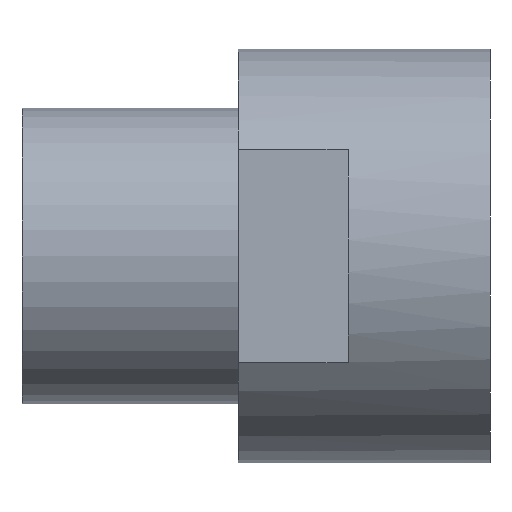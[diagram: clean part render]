
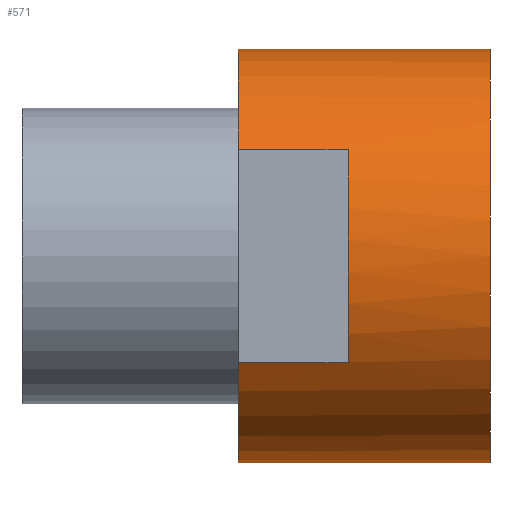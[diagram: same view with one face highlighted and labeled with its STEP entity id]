
A CAD part, front view. The second image highlights one B-rep face of the part: STEP entity #571.
In plain terms, the highlighted cylindrical face has radius 22.225 mm (diameter 44.45 mm), a partial arc.
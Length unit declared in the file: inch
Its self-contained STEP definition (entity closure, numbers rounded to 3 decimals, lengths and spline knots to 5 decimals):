
#5 = AXIS2_PLACEMENT_3D ( 'NONE', #444, #446, #445 ) ;
#11 = AXIS2_PLACEMENT_3D ( 'NONE', #525, #524, #521 ) ;
#13 = EDGE_CURVE ( 'NONE', #172, #186, #196, .T. ) ;
#18 = EDGE_CURVE ( 'NONE', #177, #193, #211, .T. ) ;
#19 = EDGE_CURVE ( 'NONE', #171, #193, #206, .T. ) ;
#26 = AXIS2_PLACEMENT_3D ( 'NONE', #399, #398, #395 ) ;
#27 = EDGE_CURVE ( 'NONE', #165, #174, #216, .T. ) ;
#28 = EDGE_CURVE ( 'NONE', #174, #177, #220, .T. ) ;
#39 = EDGE_CURVE ( 'NONE', #165, #172, #300, .T. ) ;
#41 = EDGE_CURVE ( 'NONE', #184, #186, #234, .T. ) ;
#44 = EDGE_CURVE ( 'NONE', #171, #184, #150, .T. ) ;
#53 = AXIS2_PLACEMENT_3D ( 'NONE', #528, #527, #526 ) ;
#60 = AXIS2_PLACEMENT_3D ( 'NONE', #367, #373, #371 ) ;
#114 = FACE_OUTER_BOUND ( 'NONE', #310, .T. ) ;
#148 = VECTOR ( 'NONE', #517, 39.37008 ) ;
#150 = LINE ( 'NONE', #518, #148 ) ;
#154 = ORIENTED_EDGE ( 'NONE', *, *, #13, .T. ) ;
#155 = ORIENTED_EDGE ( 'NONE', *, *, #28, .F. ) ;
#156 = ORIENTED_EDGE ( 'NONE', *, *, #41, .F. ) ;
#158 = ORIENTED_EDGE ( 'NONE', *, *, #39, .T. ) ;
#161 = ORIENTED_EDGE ( 'NONE', *, *, #19, .T. ) ;
#163 = ORIENTED_EDGE ( 'NONE', *, *, #18, .F. ) ;
#165 = VERTEX_POINT ( 'NONE', #477 ) ;
#169 = ORIENTED_EDGE ( 'NONE', *, *, #44, .F. ) ;
#171 = VERTEX_POINT ( 'NONE', #480 ) ;
#172 = VERTEX_POINT ( 'NONE', #472 ) ;
#173 = ORIENTED_EDGE ( 'NONE', *, *, #27, .F. ) ;
#174 = VERTEX_POINT ( 'NONE', #484 ) ;
#177 = VERTEX_POINT ( 'NONE', #467 ) ;
#184 = VERTEX_POINT ( 'NONE', #460 ) ;
#186 = VERTEX_POINT ( 'NONE', #456 ) ;
#193 = VERTEX_POINT ( 'NONE', #451 ) ;
#196 = LINE ( 'NONE', #519, #227 ) ;
#206 = CIRCLE ( 'NONE', #5, 0.875 ) ;
#210 = VECTOR ( 'NONE', #474, 39.37008 ) ;
#211 = LINE ( 'NONE', #470, #210 ) ;
#216 = LINE ( 'NONE', #447, #223 ) ;
#220 = CIRCLE ( 'NONE', #26, 0.875 ) ;
#223 = VECTOR ( 'NONE', #432, 39.37008 ) ;
#227 = VECTOR ( 'NONE', #489, 39.37008 ) ;
#234 = CIRCLE ( 'NONE', #11, 0.875 ) ;
#300 = CIRCLE ( 'NONE', #53, 0.875 ) ;
#310 = EDGE_LOOP ( 'NONE', ( #169, #161, #163, #155, #173, #158, #154, #156 ) ) ;
#367 = CARTESIAN_POINT ( 'NONE',  ( 0., 0., 0. ) ) ;
#371 = DIRECTION ( 'NONE',  ( 0., 0., -1. ) ) ;
#373 = DIRECTION ( 'NONE',  ( 1., 0., 0. ) ) ;
#395 = DIRECTION ( 'NONE',  ( 0., 0., 1. ) ) ;
#398 = DIRECTION ( 'NONE',  ( -1., 0., 0. ) ) ;
#399 = CARTESIAN_POINT ( 'NONE',  ( -0.6, 0., 0. ) ) ;
#432 = DIRECTION ( 'NONE',  ( 1., 0., 0. ) ) ;
#444 = CARTESIAN_POINT ( 'NONE',  ( -1.065, 0., 0. ) ) ;
#445 = DIRECTION ( 'NONE',  ( 0., 0., -1. ) ) ;
#446 = DIRECTION ( 'NONE',  ( 1., 0., 0. ) ) ;
#447 = CARTESIAN_POINT ( 'NONE',  ( 0., -0.75, -0.45069 ) ) ;
#451 = CARTESIAN_POINT ( 'NONE',  ( -1.065, -0.75, 0.45069 ) ) ;
#456 = CARTESIAN_POINT ( 'NONE',  ( 0., 0., -0.875 ) ) ;
#460 = CARTESIAN_POINT ( 'NONE',  ( 0., 0., 0.875 ) ) ;
#467 = CARTESIAN_POINT ( 'NONE',  ( -0.6, -0.75, 0.45069 ) ) ;
#470 = CARTESIAN_POINT ( 'NONE',  ( 0., -0.75, 0.45069 ) ) ;
#472 = CARTESIAN_POINT ( 'NONE',  ( -1.065, 0., -0.875 ) ) ;
#474 = DIRECTION ( 'NONE',  ( -1., 0., 0. ) ) ;
#477 = CARTESIAN_POINT ( 'NONE',  ( -1.065, -0.75, -0.45069 ) ) ;
#480 = CARTESIAN_POINT ( 'NONE',  ( -1.065, 0., 0.875 ) ) ;
#484 = CARTESIAN_POINT ( 'NONE',  ( -0.6, -0.75, -0.45069 ) ) ;
#489 = DIRECTION ( 'NONE',  ( 1., 0., 0. ) ) ;
#517 = DIRECTION ( 'NONE',  ( 1., 0., 0. ) ) ;
#518 = CARTESIAN_POINT ( 'NONE',  ( 0., 0., 0.875 ) ) ;
#519 = CARTESIAN_POINT ( 'NONE',  ( 0., 0., -0.875 ) ) ;
#521 = DIRECTION ( 'NONE',  ( 0., 0., -1. ) ) ;
#524 = DIRECTION ( 'NONE',  ( 1., 0., 0. ) ) ;
#525 = CARTESIAN_POINT ( 'NONE',  ( 0., 0., 0. ) ) ;
#526 = DIRECTION ( 'NONE',  ( 0., 0., -1. ) ) ;
#527 = DIRECTION ( 'NONE',  ( 1., 0., 0. ) ) ;
#528 = CARTESIAN_POINT ( 'NONE',  ( -1.065, 0., 0. ) ) ;
#541 = CYLINDRICAL_SURFACE ( 'NONE', #60, 0.875 ) ;
#571 = ADVANCED_FACE ( 'NONE', ( #114 ), #541, .T. ) ;
